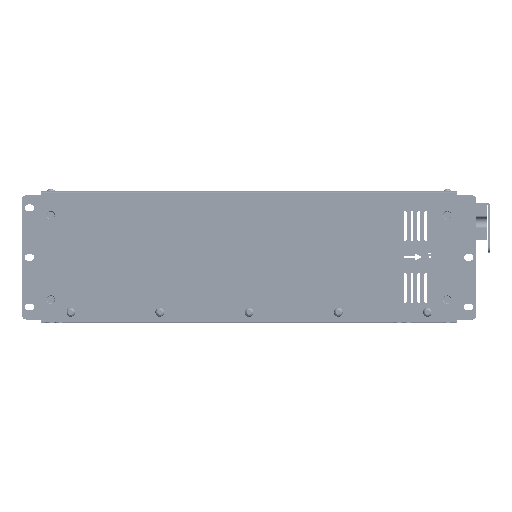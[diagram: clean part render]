
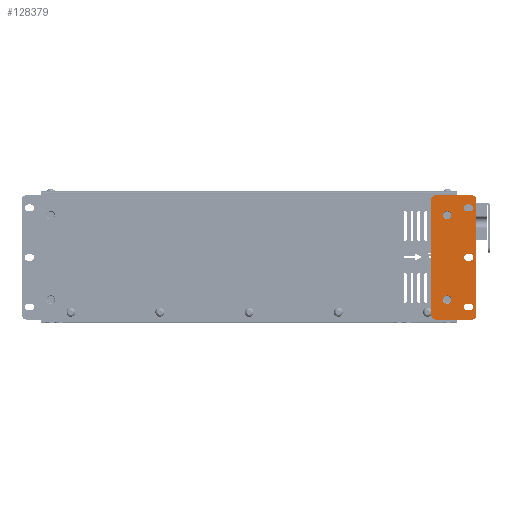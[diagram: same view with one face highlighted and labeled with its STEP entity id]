
A CAD part, top view. The second image highlights one B-rep face of the part: STEP entity #128379.
In plain terms, the highlighted planar face has unit normal (0, 0, 1).
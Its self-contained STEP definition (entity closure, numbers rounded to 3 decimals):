
#4620=FACE_BOUND('',#16925,.T.);
#4621=FACE_BOUND('',#16926,.T.);
#4622=FACE_BOUND('',#16927,.T.);
#4623=FACE_BOUND('',#16928,.T.);
#4624=FACE_BOUND('',#16929,.T.);
#5680=PLANE('',#135634);
#9913=FACE_OUTER_BOUND('',#16924,.T.);
#16924=EDGE_LOOP('',(#83865,#83866,#83867,#83868,#83869,#83870,#83871,#83872));
#16925=EDGE_LOOP('',(#83873));
#16926=EDGE_LOOP('',(#83874,#83875,#83876,#83877));
#16927=EDGE_LOOP('',(#83878,#83879,#83880,#83881));
#16928=EDGE_LOOP('',(#83882,#83883,#83884,#83885));
#16929=EDGE_LOOP('',(#83886));
#24959=LINE('',#176870,#37061);
#24960=LINE('',#176874,#37062);
#24961=LINE('',#176878,#37063);
#24962=LINE('',#176882,#37064);
#24963=LINE('',#176886,#37065);
#24964=LINE('',#176890,#37066);
#24965=LINE('',#176894,#37067);
#24966=LINE('',#176898,#37068);
#24967=LINE('',#176902,#37069);
#24968=LINE('',#176906,#37070);
#37061=VECTOR('',#145788,10.);
#37062=VECTOR('',#145791,10.);
#37063=VECTOR('',#145794,10.);
#37064=VECTOR('',#145797,10.);
#37065=VECTOR('',#145800,10.);
#37066=VECTOR('',#145803,10.);
#37067=VECTOR('',#145806,10.);
#37068=VECTOR('',#145809,10.);
#37069=VECTOR('',#145812,10.);
#37070=VECTOR('',#145815,10.);
#49106=CIRCLE('',#135628,4.25);
#49108=CIRCLE('',#135631,4.25);
#49110=CIRCLE('',#135635,4.);
#49111=CIRCLE('',#135636,4.);
#49112=CIRCLE('',#135637,4.);
#49113=CIRCLE('',#135638,4.);
#49114=CIRCLE('',#135639,3.3);
#49115=CIRCLE('',#135640,3.3);
#49116=CIRCLE('',#135641,3.3);
#49117=CIRCLE('',#135642,3.3);
#49118=CIRCLE('',#135643,3.3);
#49119=CIRCLE('',#135644,3.3);
#52622=VERTEX_POINT('',#176854);
#52624=VERTEX_POINT('',#176860);
#52626=VERTEX_POINT('',#176868);
#52627=VERTEX_POINT('',#176869);
#52628=VERTEX_POINT('',#176871);
#52629=VERTEX_POINT('',#176873);
#52630=VERTEX_POINT('',#176875);
#52631=VERTEX_POINT('',#176877);
#52632=VERTEX_POINT('',#176879);
#52633=VERTEX_POINT('',#176881);
#52634=VERTEX_POINT('',#176884);
#52635=VERTEX_POINT('',#176885);
#52636=VERTEX_POINT('',#176887);
#52637=VERTEX_POINT('',#176889);
#52638=VERTEX_POINT('',#176892);
#52639=VERTEX_POINT('',#176893);
#52640=VERTEX_POINT('',#176895);
#52641=VERTEX_POINT('',#176897);
#52642=VERTEX_POINT('',#176900);
#52643=VERTEX_POINT('',#176901);
#52644=VERTEX_POINT('',#176903);
#52645=VERTEX_POINT('',#176905);
#64841=EDGE_CURVE('',#52622,#52622,#49106,.T.);
#64844=EDGE_CURVE('',#52624,#52624,#49108,.T.);
#64847=EDGE_CURVE('',#52626,#52627,#24959,.T.);
#64848=EDGE_CURVE('',#52628,#52626,#49110,.T.);
#64849=EDGE_CURVE('',#52629,#52628,#24960,.T.);
#64850=EDGE_CURVE('',#52630,#52629,#49111,.T.);
#64851=EDGE_CURVE('',#52631,#52630,#24961,.T.);
#64852=EDGE_CURVE('',#52632,#52631,#49112,.T.);
#64853=EDGE_CURVE('',#52633,#52632,#24962,.T.);
#64854=EDGE_CURVE('',#52627,#52633,#49113,.T.);
#64855=EDGE_CURVE('',#52634,#52635,#24963,.T.);
#64856=EDGE_CURVE('',#52636,#52634,#49114,.T.);
#64857=EDGE_CURVE('',#52637,#52636,#24964,.T.);
#64858=EDGE_CURVE('',#52635,#52637,#49115,.T.);
#64859=EDGE_CURVE('',#52638,#52639,#24965,.T.);
#64860=EDGE_CURVE('',#52640,#52638,#49116,.T.);
#64861=EDGE_CURVE('',#52641,#52640,#24966,.T.);
#64862=EDGE_CURVE('',#52639,#52641,#49117,.T.);
#64863=EDGE_CURVE('',#52642,#52643,#24967,.T.);
#64864=EDGE_CURVE('',#52644,#52642,#49118,.T.);
#64865=EDGE_CURVE('',#52645,#52644,#24968,.T.);
#64866=EDGE_CURVE('',#52643,#52645,#49119,.T.);
#83865=ORIENTED_EDGE('',*,*,#64847,.F.);
#83866=ORIENTED_EDGE('',*,*,#64848,.F.);
#83867=ORIENTED_EDGE('',*,*,#64849,.F.);
#83868=ORIENTED_EDGE('',*,*,#64850,.F.);
#83869=ORIENTED_EDGE('',*,*,#64851,.F.);
#83870=ORIENTED_EDGE('',*,*,#64852,.F.);
#83871=ORIENTED_EDGE('',*,*,#64853,.F.);
#83872=ORIENTED_EDGE('',*,*,#64854,.F.);
#83873=ORIENTED_EDGE('',*,*,#64844,.F.);
#83874=ORIENTED_EDGE('',*,*,#64855,.F.);
#83875=ORIENTED_EDGE('',*,*,#64856,.F.);
#83876=ORIENTED_EDGE('',*,*,#64857,.F.);
#83877=ORIENTED_EDGE('',*,*,#64858,.F.);
#83878=ORIENTED_EDGE('',*,*,#64859,.F.);
#83879=ORIENTED_EDGE('',*,*,#64860,.F.);
#83880=ORIENTED_EDGE('',*,*,#64861,.F.);
#83881=ORIENTED_EDGE('',*,*,#64862,.F.);
#83882=ORIENTED_EDGE('',*,*,#64863,.F.);
#83883=ORIENTED_EDGE('',*,*,#64864,.F.);
#83884=ORIENTED_EDGE('',*,*,#64865,.F.);
#83885=ORIENTED_EDGE('',*,*,#64866,.F.);
#83886=ORIENTED_EDGE('',*,*,#64841,.F.);
#128379=ADVANCED_FACE('',(#9913,#4620,#4621,#4622,#4623,#4624),#5680,.F.);
#135628=AXIS2_PLACEMENT_3D('',#176856,#145772,#145773);
#135631=AXIS2_PLACEMENT_3D('',#176862,#145779,#145780);
#135634=AXIS2_PLACEMENT_3D('',#176867,#145786,#145787);
#135635=AXIS2_PLACEMENT_3D('',#176872,#145789,#145790);
#135636=AXIS2_PLACEMENT_3D('',#176876,#145792,#145793);
#135637=AXIS2_PLACEMENT_3D('',#176880,#145795,#145796);
#135638=AXIS2_PLACEMENT_3D('',#176883,#145798,#145799);
#135639=AXIS2_PLACEMENT_3D('',#176888,#145801,#145802);
#135640=AXIS2_PLACEMENT_3D('',#176891,#145804,#145805);
#135641=AXIS2_PLACEMENT_3D('',#176896,#145807,#145808);
#135642=AXIS2_PLACEMENT_3D('',#176899,#145810,#145811);
#135643=AXIS2_PLACEMENT_3D('',#176904,#145813,#145814);
#135644=AXIS2_PLACEMENT_3D('',#176907,#145816,#145817);
#145772=DIRECTION('center_axis',(0.,0.,
1.));
#145773=DIRECTION('ref_axis',(1.,0.,0.));
#145779=DIRECTION('center_axis',(0.,0.,
1.));
#145780=DIRECTION('ref_axis',(1.,0.,0.));
#145786=DIRECTION('center_axis',(0.,0.,
-1.));
#145787=DIRECTION('ref_axis',(0.,1.,0.));
#145788=DIRECTION('',(-1.,0.,0.));
#145789=DIRECTION('center_axis',(0.,0.,
-1.));
#145790=DIRECTION('ref_axis',(1.,0.,0.));
#145791=DIRECTION('',(0.,-1.,0.));
#145792=DIRECTION('center_axis',(0.,0.,
-1.));
#145793=DIRECTION('ref_axis',(0.,1.,0.));
#145794=DIRECTION('',(1.,0.,0.));
#145795=DIRECTION('center_axis',(0.,0.,
-1.));
#145796=DIRECTION('ref_axis',(-1.,0.,0.));
#145797=DIRECTION('',(0.,1.,0.));
#145798=DIRECTION('center_axis',(0.,0.,
-1.));
#145799=DIRECTION('ref_axis',(0.,-1.,0.));
#145800=DIRECTION('',(1.,0.,0.));
#145801=DIRECTION('center_axis',(0.,0.,
1.));
#145802=DIRECTION('ref_axis',(0.,1.,0.));
#145803=DIRECTION('',(-1.,0.,0.));
#145804=DIRECTION('center_axis',(0.,0.,
1.));
#145805=DIRECTION('ref_axis',(0.,-1.,0.));
#145806=DIRECTION('',(1.,0.,0.));
#145807=DIRECTION('center_axis',(0.,0.,
1.));
#145808=DIRECTION('ref_axis',(0.,1.,0.));
#145809=DIRECTION('',(-1.,0.,0.));
#145810=DIRECTION('center_axis',(0.,0.,
1.));
#145811=DIRECTION('ref_axis',(0.,-1.,0.));
#145812=DIRECTION('',(1.,0.,0.));
#145813=DIRECTION('center_axis',(0.,0.,
1.));
#145814=DIRECTION('ref_axis',(0.,1.,0.));
#145815=DIRECTION('',(-1.,0.,0.));
#145816=DIRECTION('center_axis',(0.,0.,
1.));
#145817=DIRECTION('ref_axis',(0.,-1.,0.));
#176854=CARTESIAN_POINT('',(306.304,278.073,-458.271));
#176856=CARTESIAN_POINT('Origin',(310.554,278.073,-458.271));
#176860=CARTESIAN_POINT('',(306.304,363.073,-458.271));
#176862=CARTESIAN_POINT('Origin',(310.554,363.073,-458.271));
#176867=CARTESIAN_POINT('Origin',(317.054,320.573,-458.271));
#176868=CARTESIAN_POINT('',(335.554,258.073,-458.271));
#176869=CARTESIAN_POINT('',(298.554,258.073,-458.271));
#176870=CARTESIAN_POINT('',(335.554,258.073,-458.271));
#176871=CARTESIAN_POINT('',(339.554,262.073,-458.271));
#176872=CARTESIAN_POINT('Origin',(335.554,262.073,-458.271));
#176873=CARTESIAN_POINT('',(339.554,379.073,-458.271));
#176874=CARTESIAN_POINT('',(339.554,379.073,-458.271));
#176875=CARTESIAN_POINT('',(335.554,383.073,-458.271));
#176876=CARTESIAN_POINT('Origin',(335.554,379.073,-458.271));
#176877=CARTESIAN_POINT('',(298.554,383.073,-458.271));
#176878=CARTESIAN_POINT('',(298.554,383.073,-458.271));
#176879=CARTESIAN_POINT('',(294.554,379.073,-458.271));
#176880=CARTESIAN_POINT('Origin',(298.554,379.073,-458.271));
#176881=CARTESIAN_POINT('',(294.554,262.073,-458.271));
#176882=CARTESIAN_POINT('',(294.554,262.073,-458.271));
#176883=CARTESIAN_POINT('Origin',(298.554,262.073,-458.271));
#176884=CARTESIAN_POINT('',(330.554,267.273,-458.271));
#176885=CARTESIAN_POINT('',(333.554,267.273,-458.271));
#176886=CARTESIAN_POINT('',(330.554,267.273,-458.271));
#176887=CARTESIAN_POINT('',(330.554,273.873,-458.271));
#176888=CARTESIAN_POINT('Origin',(330.554,270.573,-458.271));
#176889=CARTESIAN_POINT('',(333.554,273.873,-458.271));
#176890=CARTESIAN_POINT('',(333.554,273.873,-458.271));
#176891=CARTESIAN_POINT('Origin',(333.554,270.573,-458.271));
#176892=CARTESIAN_POINT('',(330.554,317.273,-458.271));
#176893=CARTESIAN_POINT('',(333.554,317.273,-458.271));
#176894=CARTESIAN_POINT('',(330.554,317.273,-458.271));
#176895=CARTESIAN_POINT('',(330.554,323.873,-458.271));
#176896=CARTESIAN_POINT('Origin',(330.554,320.573,-458.271));
#176897=CARTESIAN_POINT('',(333.554,323.873,-458.271));
#176898=CARTESIAN_POINT('',(333.554,323.873,-458.271));
#176899=CARTESIAN_POINT('Origin',(333.554,320.573,-458.271));
#176900=CARTESIAN_POINT('',(330.554,367.273,-458.271));
#176901=CARTESIAN_POINT('',(333.554,367.273,-458.271));
#176902=CARTESIAN_POINT('',(330.554,367.273,-458.271));
#176903=CARTESIAN_POINT('',(330.554,373.873,-458.271));
#176904=CARTESIAN_POINT('Origin',(330.554,370.573,-458.271));
#176905=CARTESIAN_POINT('',(333.554,373.873,-458.271));
#176906=CARTESIAN_POINT('',(333.554,373.873,-458.271));
#176907=CARTESIAN_POINT('Origin',(333.554,370.573,-458.271));
